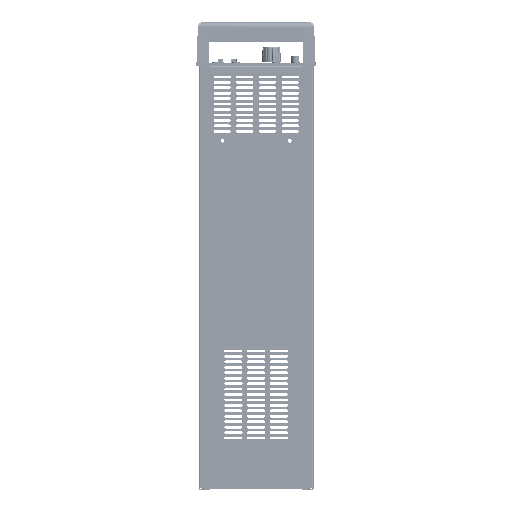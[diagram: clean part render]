
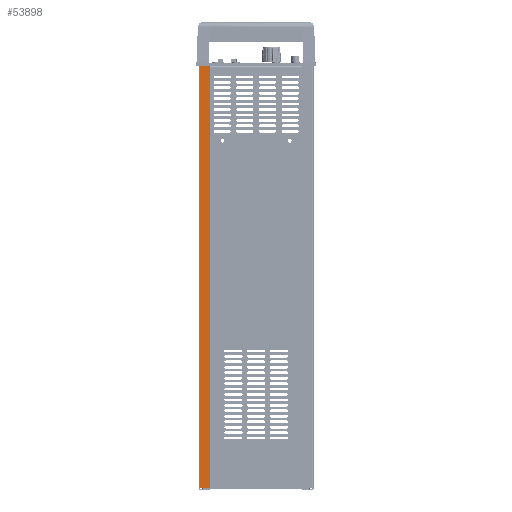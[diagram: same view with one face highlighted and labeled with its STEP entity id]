
A CAD part, left-side view. The second image highlights one B-rep face of the part: STEP entity #53898.
In plain terms, the highlighted planar face has unit normal (-1, 0, 0).
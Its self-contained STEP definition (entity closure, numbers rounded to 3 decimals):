
#2402 = ORIENTED_EDGE ( 'NONE', *, *, #152768, .T. ) ;
#2801 = PLANE ( 'NONE',  #29994 ) ;
#3450 = LINE ( 'NONE', #91045, #14364 ) ;
#7167 = DIRECTION ( 'NONE',  ( 0., -1., 0. ) ) ;
#8390 = EDGE_LOOP ( 'NONE', ( #2402, #98097, #163916, #139115 ) ) ;
#14364 = VECTOR ( 'NONE', #107543, 1000. ) ;
#17243 = CARTESIAN_POINT ( 'NONE',  ( 7.451, 243.552, 638.169 ) ) ;
#21391 = VECTOR ( 'NONE', #25544, 1000. ) ;
#25544 = DIRECTION ( 'NONE',  ( 0., 1., 0. ) ) ;
#29994 = AXIS2_PLACEMENT_3D ( 'NONE', #54666, #150893, #104037 ) ;
#43063 = CARTESIAN_POINT ( 'NONE',  ( 7.451, 230.552, 638.169 ) ) ;
#45311 = CARTESIAN_POINT ( 'NONE',  ( 7.451, 230.552, 172.169 ) ) ;
#45572 = CARTESIAN_POINT ( 'NONE',  ( 7.451, 243.552, 172.169 ) ) ;
#48652 = VECTOR ( 'NONE', #69382, 1000. ) ;
#49279 = VECTOR ( 'NONE', #7167, 1000. ) ;
#50823 = LINE ( 'NONE', #45572, #49279 ) ;
#53898 = ADVANCED_FACE ( 'NONE', ( #170026 ), #2801, .T. ) ;
#54666 = CARTESIAN_POINT ( 'NONE',  ( 7.451, 243.552, 170.169 ) ) ;
#60429 = EDGE_CURVE ( 'NONE', #86826, #95125, #3450, .T. ) ;
#69382 = DIRECTION ( 'NONE',  ( 0., 0., -1. ) ) ;
#86826 = VERTEX_POINT ( 'NONE', #45311 ) ;
#91045 = CARTESIAN_POINT ( 'NONE',  ( 7.451, 230.552, 170.169 ) ) ;
#95125 = VERTEX_POINT ( 'NONE', #43063 ) ;
#98097 = ORIENTED_EDGE ( 'NONE', *, *, #152886, .T. ) ;
#101298 = CARTESIAN_POINT ( 'NONE',  ( 7.451, 241.552, 638.169 ) ) ;
#102012 = CARTESIAN_POINT ( 'NONE',  ( 7.451, 241.552, 170.169 ) ) ;
#104037 = DIRECTION ( 'NONE',  ( 0., -1., 0. ) ) ;
#107543 = DIRECTION ( 'NONE',  ( 0., 0., 1. ) ) ;
#108030 = EDGE_CURVE ( 'NONE', #155950, #86826, #50823, .T. ) ;
#116061 = LINE ( 'NONE', #17243, #21391 ) ;
#133353 = CARTESIAN_POINT ( 'NONE',  ( 7.451, 241.552, 172.169 ) ) ;
#139115 = ORIENTED_EDGE ( 'NONE', *, *, #60429, .T. ) ;
#146434 = LINE ( 'NONE', #102012, #48652 ) ;
#150893 = DIRECTION ( 'NONE',  ( -1., 0., 0. ) ) ;
#152768 = EDGE_CURVE ( 'NONE', #95125, #160876, #116061, .T. ) ;
#152886 = EDGE_CURVE ( 'NONE', #160876, #155950, #146434, .T. ) ;
#155950 = VERTEX_POINT ( 'NONE', #133353 ) ;
#160876 = VERTEX_POINT ( 'NONE', #101298 ) ;
#163916 = ORIENTED_EDGE ( 'NONE', *, *, #108030, .T. ) ;
#170026 = FACE_OUTER_BOUND ( 'NONE', #8390, .T. ) ;
